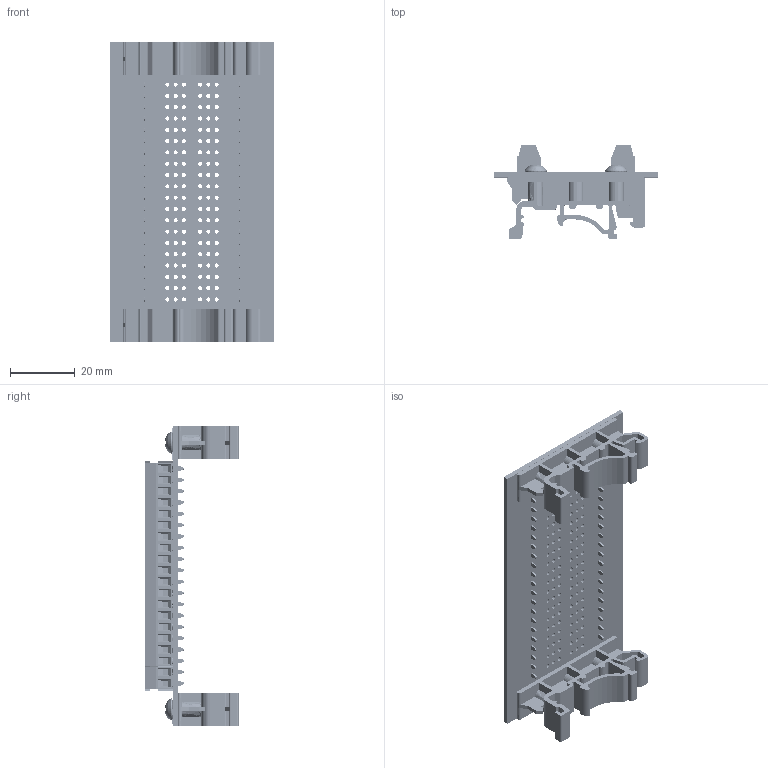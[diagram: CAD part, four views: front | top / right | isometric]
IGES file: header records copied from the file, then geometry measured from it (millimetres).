
Start section: SolidWorks IGES file using analytic representation for surfaces
Global section: file name: C:\Users\Jonny\Documents\Winford Engineering Jobs\TTA Boards\TTA3520V1\tta3520v1-din_rev_a.igs; native system: SolidWorks 2017; preprocessor: SolidWorks 2017; author: Jonny; date: 170614.225846; units: inch
Bounding box: 50.88 x 29.07 x 92.85 mm (x, y, z)
Volume: 19874.8 mm3; surface area: 28857 mm2
Topology: 21 solids, 21 shells, 6154 faces, 18595 edges, 13004 vertices
Faces by surface type: plane 3723, revolution 1604, bspline 827
